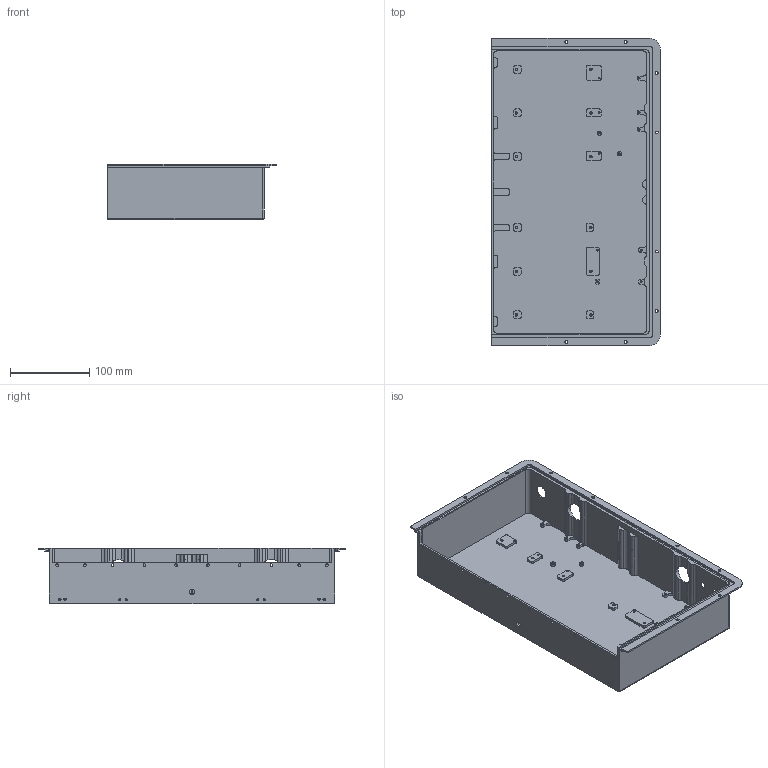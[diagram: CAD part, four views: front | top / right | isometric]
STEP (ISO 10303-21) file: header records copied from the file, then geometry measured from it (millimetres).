
FILE_DESCRIPTION (( 'STEP AP214' ), '1' );
FILE_NAME ('反制盾-盒体2.STEP', '2026-09-29T10:33:09', ( '微软用户' ), ( '微软中国' ), 'SwSTEP 2.0', 'SolidWorks 2016', '' );
FILE_SCHEMA (( 'AUTOMOTIVE_DESIGN' ));
Length unit declared in the file: millimetre
Products named in the file (1): 毀秶嗎-碟极2
Bounding box: 212.5 x 387 x 69.8 mm (x, y, z)
Volume: 311378 mm3; surface area: 310800.1 mm2
Topology: 1 solids, 1 shells, 1433 faces, 3775 edges, 2479 vertices
Faces by surface type: plane 716, cylinder 325, bspline 306, cone 84, sphere 2
Entity records: 61106 total; most frequent: CARTESIAN_POINT 26278, ORIENTED_EDGE 7546, DIRECTION 6118, EDGE_CURVE 3773, VERTEX_POINT 2479, VECTOR 2428, LINE 2428, AXIS2_PLACEMENT_3D 1845
